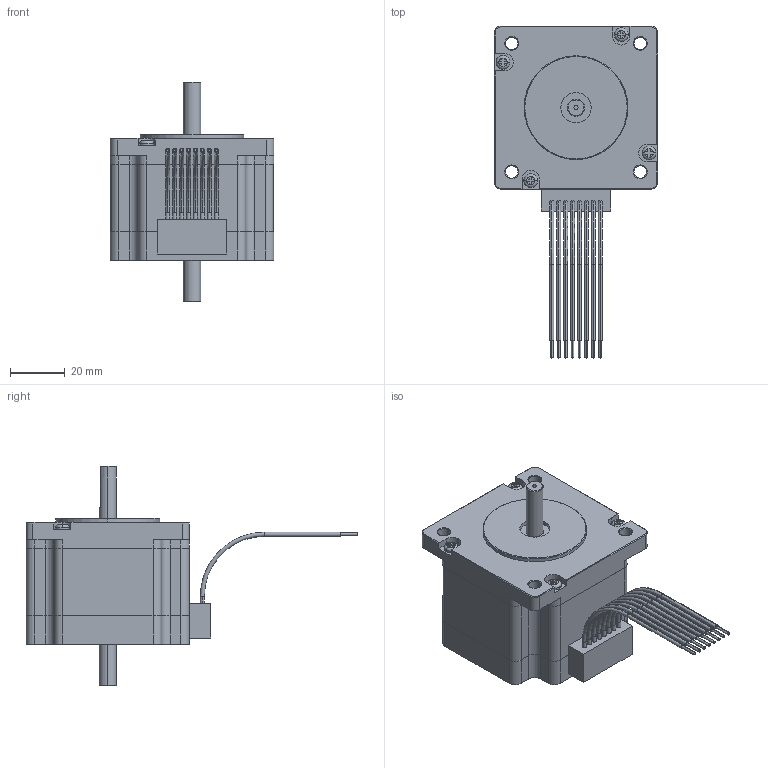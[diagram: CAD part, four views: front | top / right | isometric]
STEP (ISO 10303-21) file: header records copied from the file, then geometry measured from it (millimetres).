
FILE_DESCRIPTION (( 'STEP AP214' ), '1' );
FILE_NAME ('24Y104D-LW8.STEP', '2010-06-11T15:52:02', ( 'Tim Raines' ), ( 'Anaheim Automation' ), 'SwSTEP 2.0', 'SolidWorks 2010', '' );
FILE_SCHEMA (( 'AUTOMOTIVE_DESIGN' ));
Length unit declared in the file: inch
Products named in the file (1): 24Y104D-LW8
Bounding box: 59.94 x 121.84 x 80.57 mm (x, y, z)
Volume: 150420 mm3; surface area: 22600.1 mm2
Topology: 1 solids, 1 shells, 397 faces, 994 edges, 622 vertices
Faces by surface type: plane 175, cylinder 135, cone 63, torus 24
Entity records: 17106 total; most frequent: CARTESIAN_POINT 2256, DIRECTION 2099, ORIENTED_EDGE 1964, EDGE_CURVE 982, AXIS2_PLACEMENT_3D 777, VERTEX_POINT 622, LINE 545, VECTOR 545
